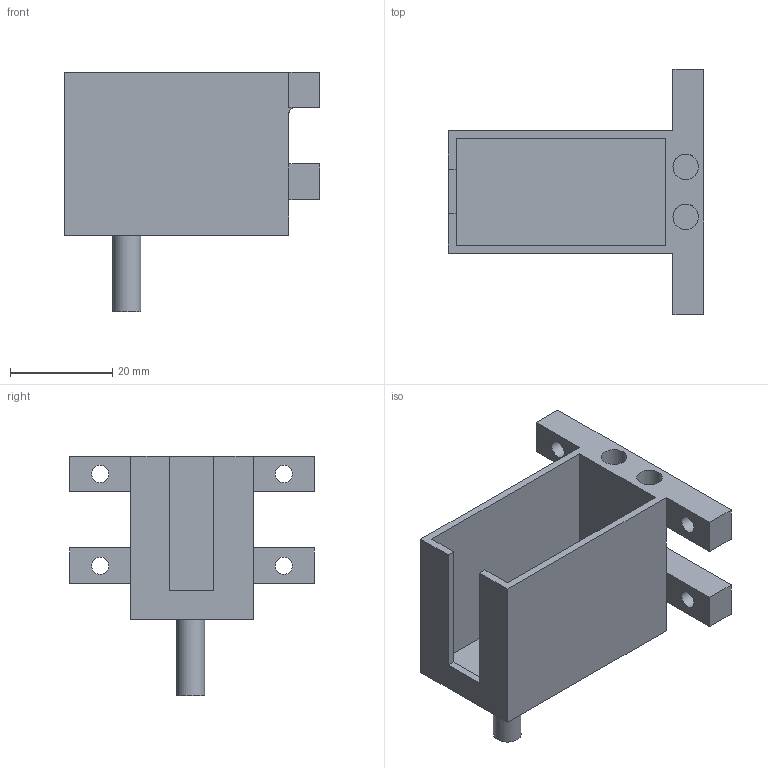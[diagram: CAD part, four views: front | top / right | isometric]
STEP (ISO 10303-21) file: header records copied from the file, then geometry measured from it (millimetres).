
FILE_DESCRIPTION(/* description */ ('STEP AP242 Edition 2','CAx-IF Rec.Pracs.---Representation and Presentation of Product Manufacturing Information (PMI)---4.0---2014-10-13','CAx-IF Rec.Pracs.---3D Tessellated Geometry---0.4---2014-09-14','2;1','CAx-IF Rec.Pracs.---User Defined Attributes---1.5---2016-08-15'),/* implementation_level */ '2;1');
FILE_NAME(/* name */ 'Arm Parts - Dof1-',/* time_stamp */ '2026-04-22T00:04:14Z',/* author */ (''),/* organization */ (''),/* preprocessor_version */ 'ST-DEVELOPER v20',/* originating_system */ 'ONSHAPE BY PTC INC, 1.213',/* authorisation */ ' ');
FILE_SCHEMA (('AP242_MANAGED_MODEL_BASED_3D_ENGINEERING_MIM_LF { 1 0 10303 442 3 1 4 }'));
Length unit declared in the file: metre
Products named in the file (1): Dof1?
Bounding box: 50 x 48 x 47 mm (x, y, z)
Volume: 11086.4 mm3; surface area: 12433.8 mm2
Topology: 1 solids, 1 shells, 39 faces, 110 edges, 72 vertices
Faces by surface type: plane 29, cylinder 10
Full cylindrical faces by diameter (mm): 3.4 x4, 5 x2, 5.5 x1
Entity records: 1231 total; most frequent: CARTESIAN_POINT 223, ORIENTED_EDGE 198, DIRECTION 191, EDGE_CURVE 99, LINE 79, VECTOR 79, VERTEX_POINT 68, EDGE_LOOP 57
